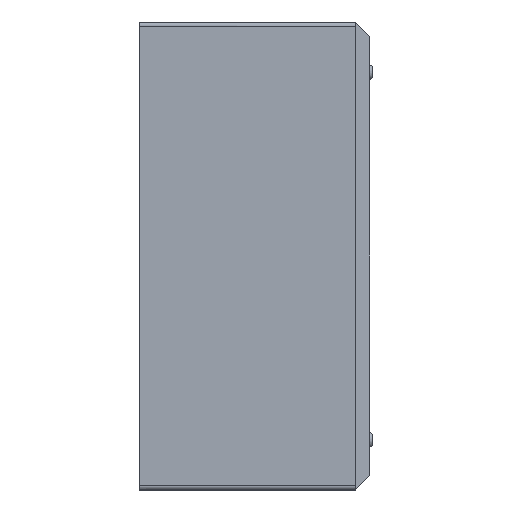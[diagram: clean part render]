
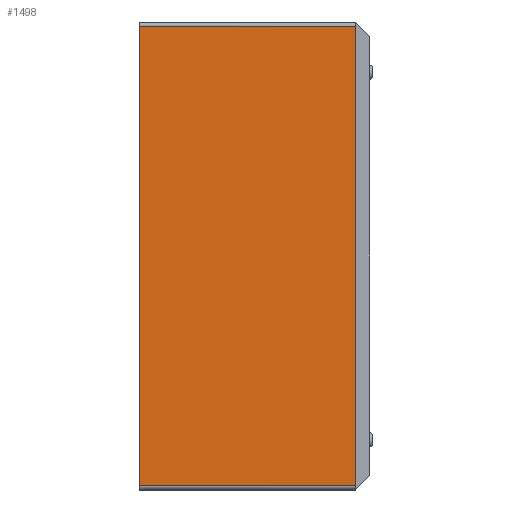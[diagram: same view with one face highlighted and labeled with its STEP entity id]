
A CAD part, left-side view. The second image highlights one B-rep face of the part: STEP entity #1498.
In plain terms, the highlighted planar face has unit normal (-1, 0, 0).
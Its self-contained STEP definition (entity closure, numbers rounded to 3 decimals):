
#20 = CARTESIAN_POINT ( 'NONE',  ( -100., -55.2, 55. ) ) ;
#288 = VECTOR ( 'NONE', #2360, 1000. ) ;
#333 = ORIENTED_EDGE ( 'NONE', *, *, #2529, .F. ) ;
#390 = LINE ( 'NONE', #2146, #288 ) ;
#507 = ORIENTED_EDGE ( 'NONE', *, *, #2543, .T. ) ;
#712 = VERTEX_POINT ( 'NONE', #2355 ) ;
#816 = EDGE_LOOP ( 'NONE', ( #333, #2760, #507, #2845 ) ) ;
#827 = VECTOR ( 'NONE', #3639, 1000. ) ;
#1065 = FACE_OUTER_BOUND ( 'NONE', #816, .T. ) ;
#1166 = VECTOR ( 'NONE', #2194, 1000. ) ;
#1200 = AXIS2_PLACEMENT_3D ( 'NONE', #2693, #3738, #2594 ) ;
#1377 = EDGE_CURVE ( 'NONE', #3636, #712, #2575, .T. ) ;
#1435 = LINE ( 'NONE', #3442, #2903 ) ;
#1449 = EDGE_CURVE ( 'NONE', #1654, #3112, #1435, .T. ) ;
#1498 = ADVANCED_FACE ( 'NONE', ( #1065 ), #2608, .T. ) ;
#1654 = VERTEX_POINT ( 'NONE', #1977 ) ;
#1977 = CARTESIAN_POINT ( 'NONE',  ( -100., 0., -55. ) ) ;
#2146 = CARTESIAN_POINT ( 'NONE',  ( -100., -51.7, 56. ) ) ;
#2194 = DIRECTION ( 'NONE',  ( 0., 0., 1. ) ) ;
#2229 = CARTESIAN_POINT ( 'NONE',  ( -100., 0., -56. ) ) ;
#2355 = CARTESIAN_POINT ( 'NONE',  ( -100., 0., 55. ) ) ;
#2360 = DIRECTION ( 'NONE',  ( 0., 0., 1. ) ) ;
#2529 = EDGE_CURVE ( 'NONE', #1654, #712, #3509, .T. ) ;
#2543 = EDGE_CURVE ( 'NONE', #3112, #3636, #390, .T. ) ;
#2575 = LINE ( 'NONE', #20, #827 ) ;
#2594 = DIRECTION ( 'NONE',  ( 0., 0., 1. ) ) ;
#2608 = PLANE ( 'NONE',  #1200 ) ;
#2693 = CARTESIAN_POINT ( 'NONE',  ( -100., -55.2, -56. ) ) ;
#2760 = ORIENTED_EDGE ( 'NONE', *, *, #1449, .T. ) ;
#2845 = ORIENTED_EDGE ( 'NONE', *, *, #1377, .T. ) ;
#2903 = VECTOR ( 'NONE', #3206, 1000. ) ;
#3079 = CARTESIAN_POINT ( 'NONE',  ( -100., -51.7, -55. ) ) ;
#3112 = VERTEX_POINT ( 'NONE', #3079 ) ;
#3206 = DIRECTION ( 'NONE',  ( 0., -1., 0. ) ) ;
#3442 = CARTESIAN_POINT ( 'NONE',  ( -100., -55.2, -55. ) ) ;
#3509 = LINE ( 'NONE', #2229, #1166 ) ;
#3636 = VERTEX_POINT ( 'NONE', #3697 ) ;
#3639 = DIRECTION ( 'NONE',  ( 0., 1., 0. ) ) ;
#3697 = CARTESIAN_POINT ( 'NONE',  ( -100., -51.7, 55. ) ) ;
#3738 = DIRECTION ( 'NONE',  ( -1., 0., 0. ) ) ;
